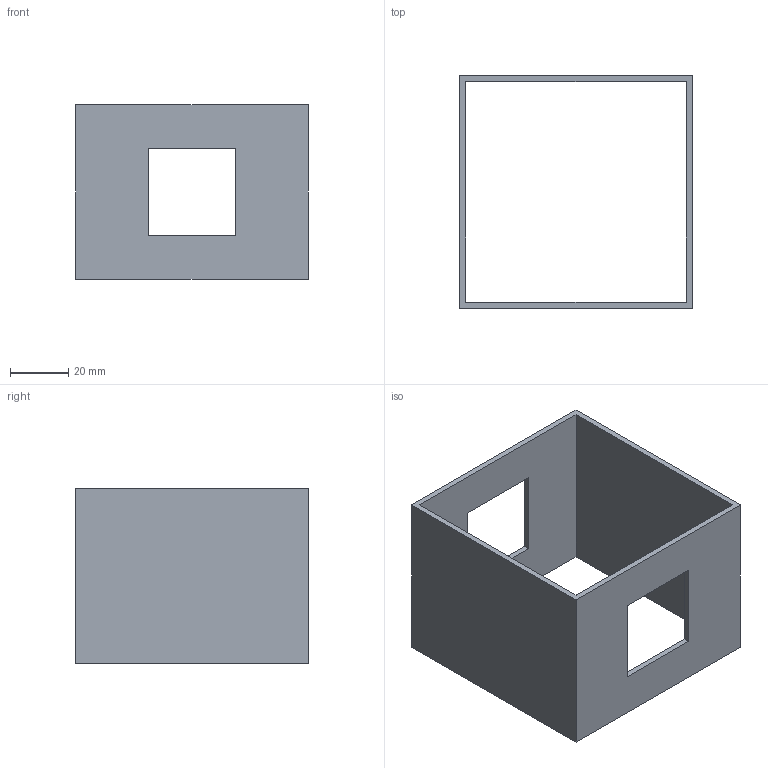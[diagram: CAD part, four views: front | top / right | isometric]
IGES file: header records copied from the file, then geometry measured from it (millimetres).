
Start section: SolidWorks IGES file using analytic representation for surfaces
Global section: file name: C:\Users\Administrator\Desktop\80-2囀30.IGS,; native system: SolidWorks 2014; preprocessor: SolidWorks 2014; author: Administrator; date: 200629.164451; units: millimetre
Bounding box: 80 x 80 x 60 mm (x, y, z)
Surface area: 35568 mm2 (no closed solid volume)
Topology: 0 solids, 0 shells, 18 faces, 96 edges, 96 vertices
Faces by surface type: bspline 18
